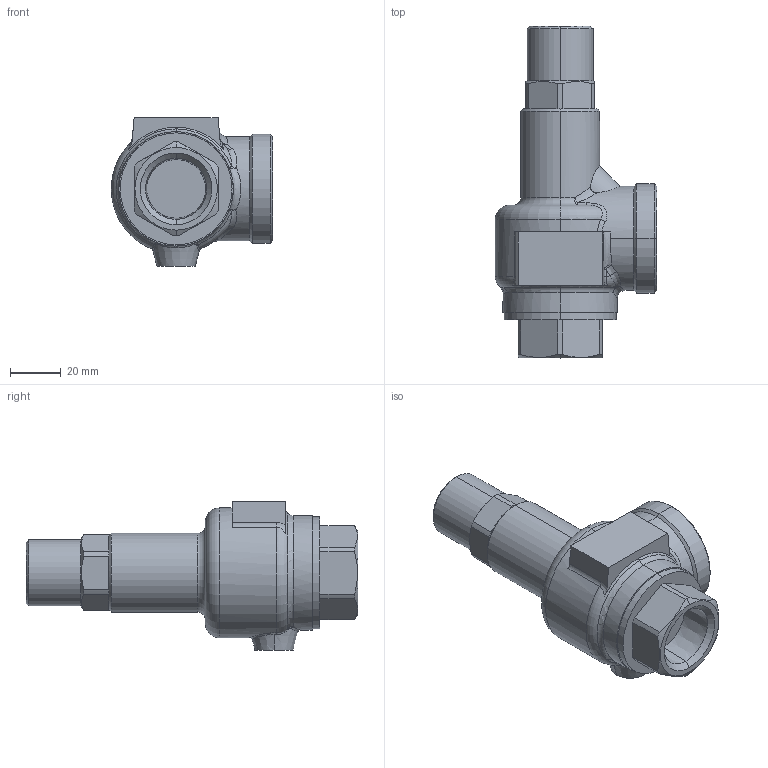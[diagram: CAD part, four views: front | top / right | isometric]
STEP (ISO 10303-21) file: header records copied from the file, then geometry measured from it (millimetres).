
FILE_DESCRIPTION (( 'STEP AP203' ), '1' );
FILE_NAME ('AL-150H 20A.STEP', '2026-01-13T00:58:16', ( '' ), ( '' ), 'SwSTEP 2.0', 'SolidWorks 2024', '' );
FILE_SCHEMA (( 'CONFIG_CONTROL_DESIGN' ));
Length unit declared in the file: millimetre
Products named in the file (1): AL-150H 20A
Bounding box: 63.5 x 130.5 x 58.5 mm (x, y, z)
Volume: 158622.6 mm3; surface area: 23332.7 mm2
Topology: 1 solids, 1 shells, 131 faces, 312 edges, 185 vertices
Faces by surface type: plane 38, cylinder 35, cone 22, bspline 19, torus 12, sphere 5
Entity records: 5353 total; most frequent: CARTESIAN_POINT 2363, ORIENTED_EDGE 620, DIRECTION 615, EDGE_CURVE 310, AXIS2_PLACEMENT_3D 256, VERTEX_POINT 185, CIRCLE 143, EDGE_LOOP 135
